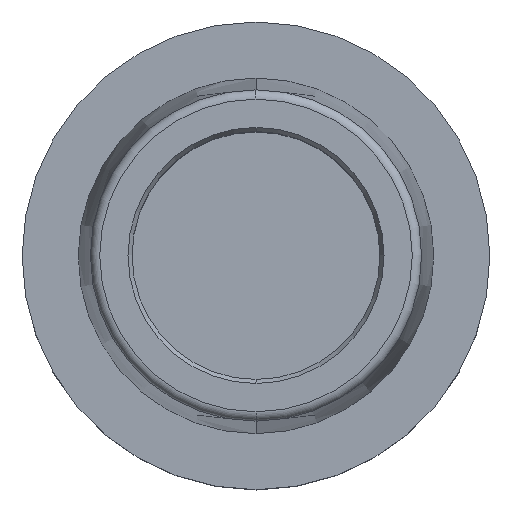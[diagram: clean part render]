
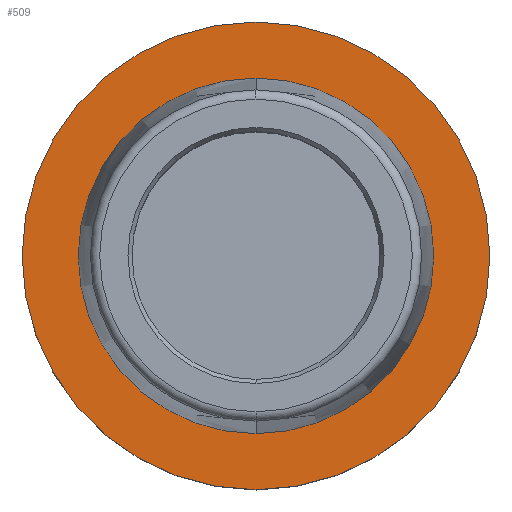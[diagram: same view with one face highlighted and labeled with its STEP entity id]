
A CAD part, top view. The second image highlights one B-rep face of the part: STEP entity #509.
In plain terms, the highlighted planar face has unit normal (0, 0, 1).
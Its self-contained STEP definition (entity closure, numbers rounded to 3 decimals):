
#287=VERTEX_POINT('',#788);
#335=VERTEX_POINT('',#843);
#341=EDGE_CURVE('',#287,#335,#849,.T.);
#497=EDGE_CURVE('',#669,#597,#1032,.T.);
#509=ADVANCED_FACE('',(#1048,#1049),#1050,.T.);
#553=EDGE_CURVE('',#597,#669,#1102,.T.);
#597=VERTEX_POINT('',#1151);
#669=VERTEX_POINT('',#1226);
#695=EDGE_CURVE('',#335,#287,#1255,.T.);
#788=CARTESIAN_POINT('',(0.,-50.0,0.0));
#843=CARTESIAN_POINT('',(0.0,50.0,0.0));
#849=CIRCLE('',#1425,50.0);
#1032=CIRCLE('',#1658,38.007);
#1048=FACE_OUTER_BOUND('',#1675,.T.);
#1049=FACE_BOUND('',#1676,.T.);
#1050=PLANE('',#1677);
#1102=CIRCLE('',#1743,38.007);
#1151=CARTESIAN_POINT('',(0.0,38.007,0.0));
#1226=CARTESIAN_POINT('',(0.,-38.007,0.0));
#1255=CIRCLE('',#1950,50.0);
#1425=AXIS2_PLACEMENT_3D('',#2135,#2136,#2137);
#1658=AXIS2_PLACEMENT_3D('',#2385,#2386,#2387);
#1675=EDGE_LOOP('',(#2424,#2425));
#1676=EDGE_LOOP('',(#2426,#2427));
#1677=AXIS2_PLACEMENT_3D('',#2428,#2429,#2430);
#1743=AXIS2_PLACEMENT_3D('',#2511,#2512,#2513);
#1950=AXIS2_PLACEMENT_3D('',#2693,#2694,#2695);
#2135=CARTESIAN_POINT('',(0.0,0.0,0.0));
#2136=DIRECTION('',(0.0,0.0,-1.0));
#2137=DIRECTION('',(0.0,1.0,0.0));
#2385=CARTESIAN_POINT('',(0.0,0.0,0.0));
#2386=DIRECTION('',(0.0,0.0,-1.0));
#2387=DIRECTION('',(0.0,1.0,0.0));
#2424=ORIENTED_EDGE('',*,*,#695,.F.);
#2425=ORIENTED_EDGE('',*,*,#341,.F.);
#2426=ORIENTED_EDGE('',*,*,#553,.T.);
#2427=ORIENTED_EDGE('',*,*,#497,.T.);
#2428=CARTESIAN_POINT('',(0.0,44.004,0.0));
#2429=DIRECTION('',(-0.0,0.0,1.0));
#2430=DIRECTION('',(0.0,-1.0,0.0));
#2511=CARTESIAN_POINT('',(0.0,0.0,0.0));
#2512=DIRECTION('',(0.0,0.0,-1.0));
#2513=DIRECTION('',(0.0,1.0,0.0));
#2693=CARTESIAN_POINT('',(0.0,0.0,0.0));
#2694=DIRECTION('',(0.0,0.0,-1.0));
#2695=DIRECTION('',(0.0,1.0,0.0));
